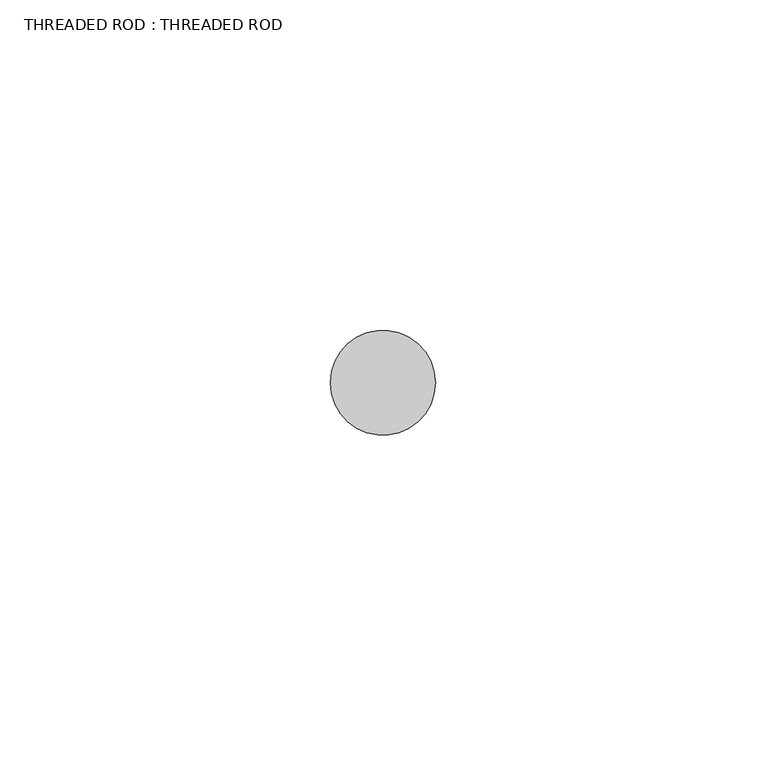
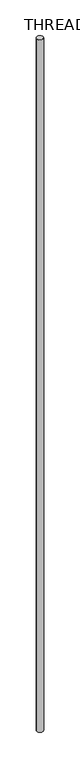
"""IFC4 building model written with IfcOpenShell, lengths in millimetres: proxy geometry, THREADED ROD : THREADED ROD."""

from ifc_helpers import new_model, si_unit, point, origin, origin_with_axes, origin_2d, place, context, project, spatial, circle_curve, trimmed, segment, composite_curve, outline, extrude, source, transform, mapped, element, save


def threaded_rod_threaded_rod_d3e18632(model_context):
    return source(origin(), model_context, "Body", "SweptSolid", [
        extrude(outline(composite_curve([segment(trimmed(circle_curve(origin_2d(), 7.9375), [point((-7.9375, 0.0))], [point((7.9375, 0.0))], False, "CARTESIAN"), True, "CONTINUOUS"), segment(trimmed(circle_curve(origin_2d(), 7.9375), [point((7.9375, 0.0))], [point((-7.9375, 0.0))], False, "CARTESIAN"), True, "CONTINUOUS")], self_intersect=False)), origin_with_axes(), (0.0, 0.0, 1.0), 1828.8),
    ])


if __name__ == "__main__":
    model = new_model("IFC4")
    model_context = context("Model", 3, world=origin())
    ifc_project = project(units=[si_unit("LENGTHUNIT", "METRE", prefix="MILLI")], contexts=[model_context])
    site = spatial("IfcSite", under=ifc_project)
    building = spatial("IfcBuilding", under=site)
    placement = place(None, origin())
    threaded_rod_threaded_rod_shape = threaded_rod_threaded_rod_d3e18632(model_context)
    element("IfcBuildingElementProxy", 1, Name="THREADED ROD : THREADED ROD", ObjectType="THREADED ROD : THREADED ROD", at=placement, inside=building, context=model_context, shape_type="MappedRepresentation", body=[
        mapped(threaded_rod_threaded_rod_shape, transform((0.0, 0.0, 0.0), x_axis=(1.0, 0.0, 0.0), y_axis=(0.0, 1.0, 0.0), z_axis=(0.0, 0.0, 1.0))),
    ])
    save(model, "model.ifc")
